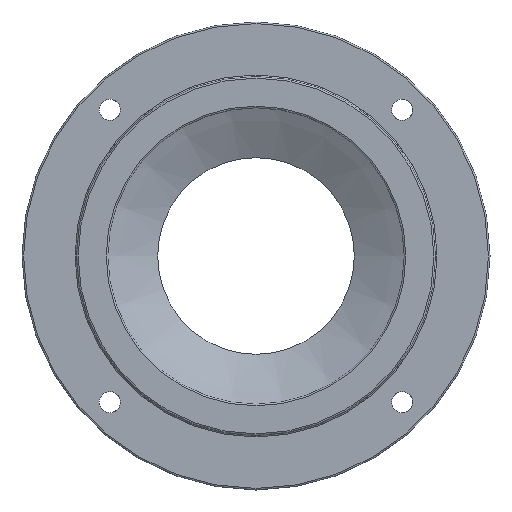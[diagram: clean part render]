
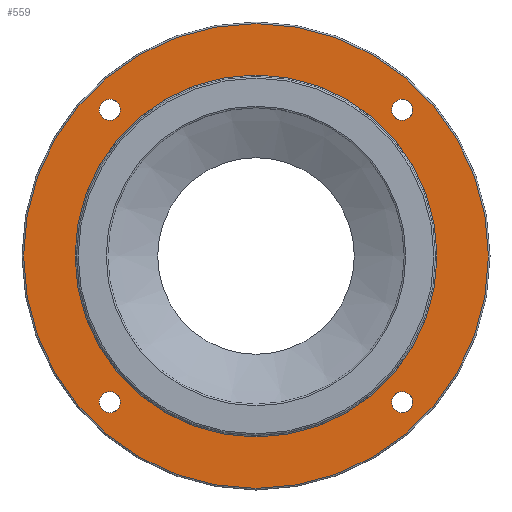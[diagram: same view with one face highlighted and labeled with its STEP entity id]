
A CAD part, front view. The second image highlights one B-rep face of the part: STEP entity #559.
In plain terms, the highlighted planar face has unit normal (0, -1, 0).
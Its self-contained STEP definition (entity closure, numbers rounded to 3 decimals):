
#124=CARTESIAN_POINT('',(-86.942,-41.,93.692));
#125=VERTEX_POINT('',#124);
#126=CARTESIAN_POINT('',(-93.692,-41.,93.692));
#127=DIRECTION('',(0.0,1.0,0.0));
#128=DIRECTION('',(1.0,0.0,0.0));
#129=AXIS2_PLACEMENT_3D('',#126,#127,#128);
#130=CIRCLE('',#129,6.75);
#131=EDGE_CURVE('',#125,#125,#130,.T.);
#192=CARTESIAN_POINT('',(-86.942,-41.,-93.692));
#193=VERTEX_POINT('',#192);
#194=CARTESIAN_POINT('',(-93.692,-41.,-93.692));
#195=DIRECTION('',(0.0,1.0,0.0));
#196=DIRECTION('',(1.0,0.0,0.0));
#197=AXIS2_PLACEMENT_3D('',#194,#195,#196);
#198=CIRCLE('',#197,6.75);
#199=EDGE_CURVE('',#193,#193,#198,.T.);
#260=CARTESIAN_POINT('',(100.442,-41.,-93.692));
#261=VERTEX_POINT('',#260);
#262=CARTESIAN_POINT('',(93.692,-41.,-93.692));
#263=DIRECTION('',(0.0,1.0,0.0));
#264=DIRECTION('',(1.0,0.0,0.0));
#265=AXIS2_PLACEMENT_3D('',#262,#263,#264);
#266=CIRCLE('',#265,6.75);
#267=EDGE_CURVE('',#261,#261,#266,.T.);
#328=CARTESIAN_POINT('',(100.442,-41.,93.692));
#329=VERTEX_POINT('',#328);
#330=CARTESIAN_POINT('',(93.692,-41.,93.692));
#331=DIRECTION('',(0.0,1.0,0.0));
#332=DIRECTION('',(1.0,0.0,0.0));
#333=AXIS2_PLACEMENT_3D('',#330,#331,#332);
#334=CIRCLE('',#333,6.75);
#335=EDGE_CURVE('',#329,#329,#334,.T.);
#513=CARTESIAN_POINT('',(-149.0,-41.,0.0));
#514=VERTEX_POINT('',#513);
#515=CARTESIAN_POINT('',(0.0,-41.,0.0));
#516=DIRECTION('',(0.0,1.0,0.0));
#517=DIRECTION('',(1.0,0.0,0.0));
#518=AXIS2_PLACEMENT_3D('',#515,#516,#517);
#519=CIRCLE('',#518,149.0);
#520=EDGE_CURVE('',#514,#514,#519,.T.);
#528=CARTESIAN_POINT('',(-132.5,-41.,0.));
#529=DIRECTION('',(0.0,-1.0,0.0));
#530=DIRECTION('',(0.0,0.0,-1.0));
#531=AXIS2_PLACEMENT_3D('',#528,#529,#530);
#532=PLANE('',#531);
#533=ORIENTED_EDGE('',*,*,#520,.F.);
#534=EDGE_LOOP('',(#533));
#535=FACE_OUTER_BOUND('',#534,.T.);
#536=ORIENTED_EDGE('',*,*,#131,.T.);
#537=EDGE_LOOP('',(#536));
#538=FACE_BOUND('',#537,.T.);
#539=ORIENTED_EDGE('',*,*,#199,.T.);
#540=EDGE_LOOP('',(#539));
#541=FACE_BOUND('',#540,.T.);
#542=ORIENTED_EDGE('',*,*,#267,.T.);
#543=EDGE_LOOP('',(#542));
#544=FACE_BOUND('',#543,.T.);
#545=ORIENTED_EDGE('',*,*,#335,.T.);
#546=EDGE_LOOP('',(#545));
#547=FACE_BOUND('',#546,.T.);
#548=CARTESIAN_POINT('',(-116.0,-41.,0.));
#549=VERTEX_POINT('',#548);
#550=CARTESIAN_POINT('',(0.0,-41.,0.0));
#551=DIRECTION('',(0.0,-1.0,0.0));
#552=DIRECTION('',(1.0,0.0,0.0));
#553=AXIS2_PLACEMENT_3D('',#550,#551,#552);
#554=CIRCLE('',#553,116.0);
#555=EDGE_CURVE('',#549,#549,#554,.T.);
#556=ORIENTED_EDGE('',*,*,#555,.F.);
#557=EDGE_LOOP('',(#556));
#558=FACE_BOUND('',#557,.T.);
#559=ADVANCED_FACE('',(#535,#538,#541,#544,#547,#558),#532,.T.);
